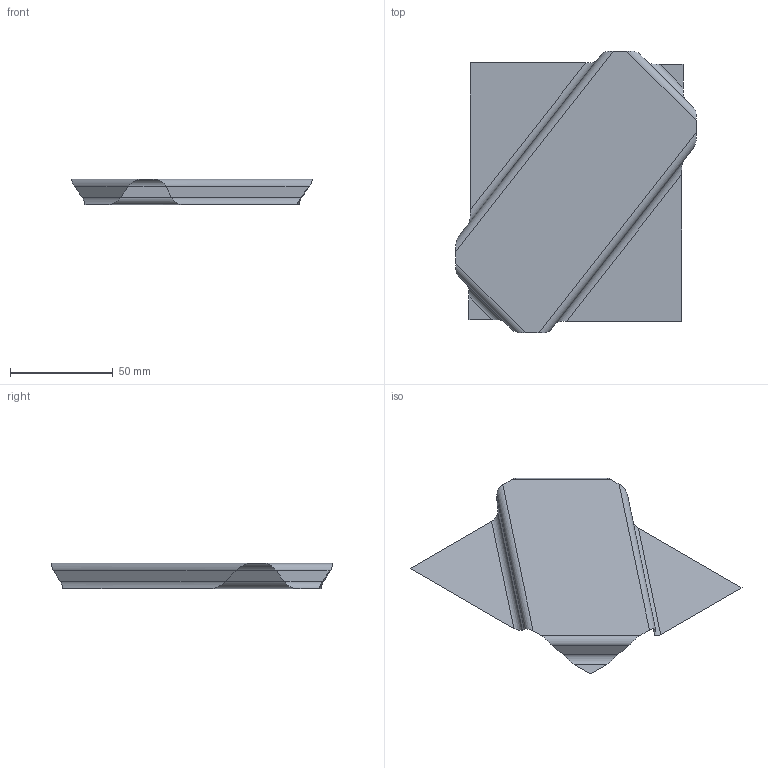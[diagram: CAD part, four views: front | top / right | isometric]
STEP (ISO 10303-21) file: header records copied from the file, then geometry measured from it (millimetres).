
FILE_DESCRIPTION(('CATIA V5 STEP Exchange'),'2;1');
FILE_NAME('C:\_Andres\UNIVERSIDAD\IQS\ASIGNATURAS\DAO\EXF\EXF-15161c\1original\Vallsmadella_Quintanilla_Ej03-chapa_v27.stp','2016-03-04T16:56:17+00:00',('none'),('none'),'CATIA Version 5 Release 20 SP 1 (IN-10)','CATIA V5 STEP AP203','none');
FILE_SCHEMA(('CONFIG_CONTROL_DESIGN'));
Length unit declared in the file: millimetre
Products named in the file (1): Vallsmadella_Quintanilla_Ej03-chapa_v27
Bounding box: 117.01 x 137.01 x 12.29 mm (x, y, z)
Surface area: 16077.5 mm2 (no closed solid volume)
Topology: 0 solids, 1 shells, 17 faces, 52 edges, 36 vertices
Faces by surface type: plane 9, cylinder 8
Entity records: 625 total; most frequent: CARTESIAN_POINT 200, ORIENTED_EDGE 68, DIRECTION 59, EDGE_CURVE 52, VERTEX_POINT 36, B_SPLINE_CURVE_WITH_KNOTS 29, VECTOR 23, LINE 23
